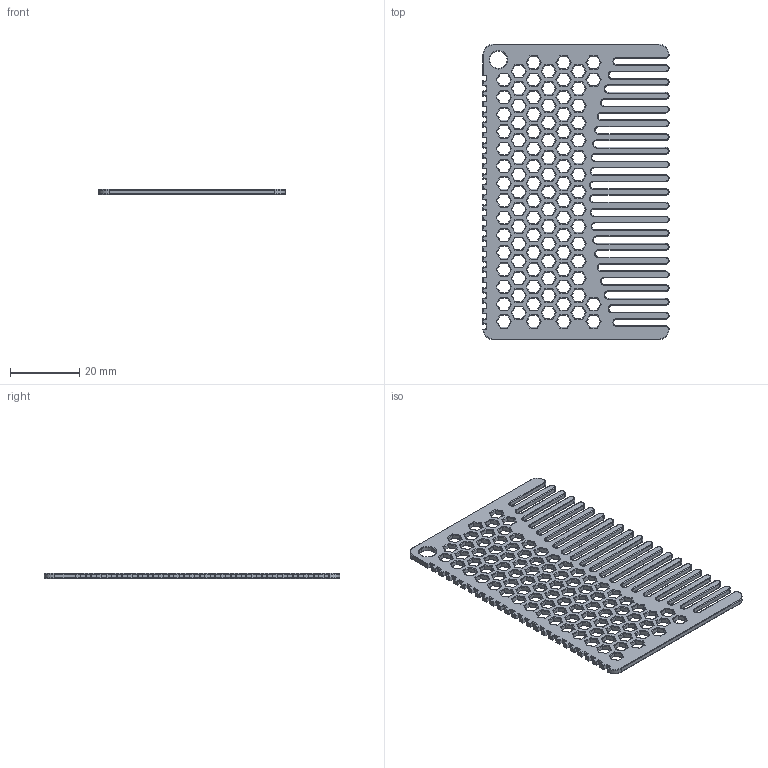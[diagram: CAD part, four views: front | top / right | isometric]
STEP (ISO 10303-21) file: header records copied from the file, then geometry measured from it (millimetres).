
FILE_DESCRIPTION (( 'STEP AP214' ), '1' );
FILE_NAME ('Credit Card Comb_1.STEP', '2023-07-21T14:37:21', ( '' ), ( '' ), 'SwSTEP 2.0', 'SolidWorks 2018', '' );
FILE_SCHEMA (( 'AUTOMOTIVE_DESIGN' ));
Length unit declared in the file: millimetre
Products named in the file (1): Credit Card Comb_1
Bounding box: 53.98 x 85.6 x 1.5 mm (x, y, z)
Volume: 4091.2 mm3; surface area: 8523.4 mm2
Topology: 1 solids, 1 shells, 2360 faces, 5502 edges, 3144 vertices
Faces by surface type: cylinder 1505, plane 721, torus 134
Entity records: 64682 total; most frequent: CARTESIAN_POINT 15269, ORIENTED_EDGE 11004, DIRECTION 9278, EDGE_CURVE 5502, LINE 3660, VECTOR 3660, VERTEX_POINT 3144, AXIS2_PLACEMENT_3D 2809
